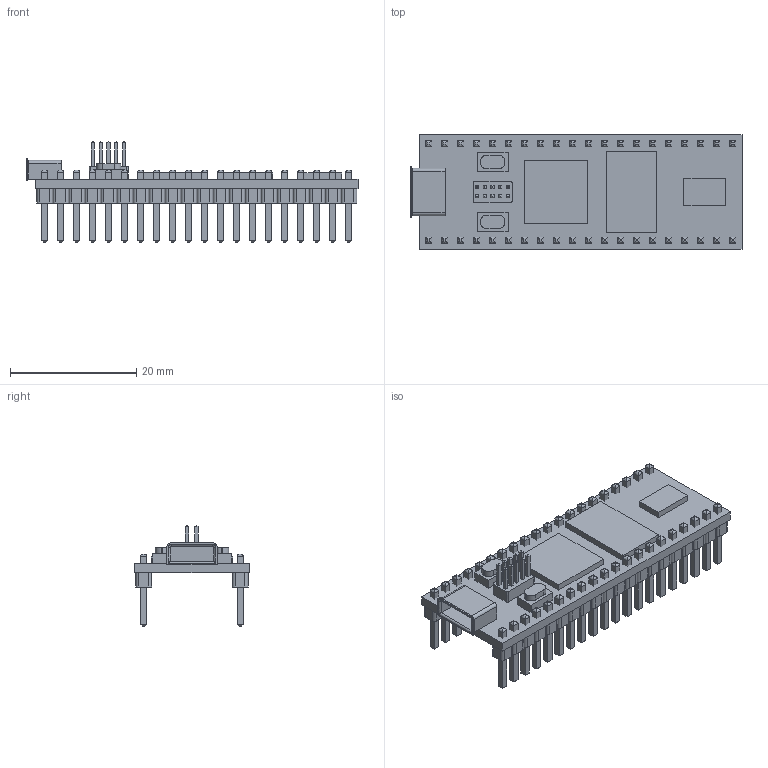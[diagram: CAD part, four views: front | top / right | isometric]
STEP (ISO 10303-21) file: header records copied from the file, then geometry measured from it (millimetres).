
FILE_DESCRIPTION((''),'2;1');
FILE_NAME('Open CASCADE Shape Model','2023-11-06T09:30:39',('unknown'),( 'unknown'),'Open CASCADE STEP processor 7.6','Daisy Board v4', 'Unknown');
FILE_SCHEMA(('AUTOMOTIVE_DESIGN_CC2 { 1 2 10303 214 -1 1 5 4 }'));
Length unit declared in the file: millimetre
Products named in the file (140): Body1; Body2; Body3; Body4; Body5; Body6; Body7; Body8; Body9; Body10; Body11; Body12; Body13; Body14; Body15; Body16; Body17; Body18; Body19; Body20; Body21; Body22; Body23; Body24; Body25; Body26; Body27; Body28; Body29; Body30; Body31; Body32; Body33; Body34; Body35; Body36; Body37; Body38; Body39; Body40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
Bounding box: 52.66 x 18.11 x 16.03 mm (x, y, z)
Volume: 2667.3 mm3; surface area: 6658.9 mm2
Topology: 140 solids, 140 shells, 1575 faces, 3509 edges, 2216 vertices
Faces by surface type: bspline 1575
Entity records: 56089 total; most frequent: CARTESIAN_POINT 16993, ORIENTED_EDGE 7018, EDGE_CURVE 3509, B_SPLINE_CURVE_WITH_KNOTS 2969, VERTEX_POINT 2216, PRESENTATION_STYLE_ASSIGNMENT 1715, SURFACE_STYLE_USAGE 1715, SURFACE_SIDE_STYLE 1715
